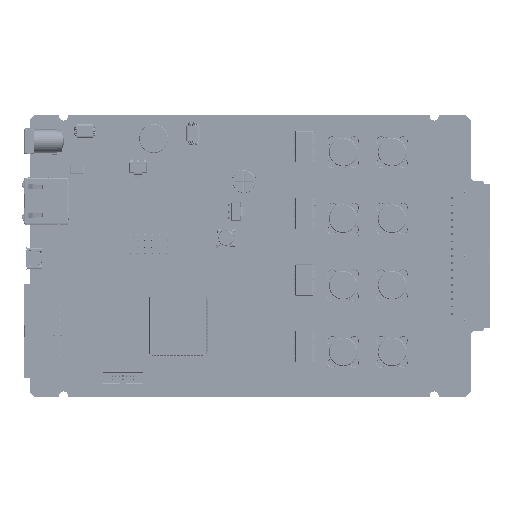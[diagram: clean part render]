
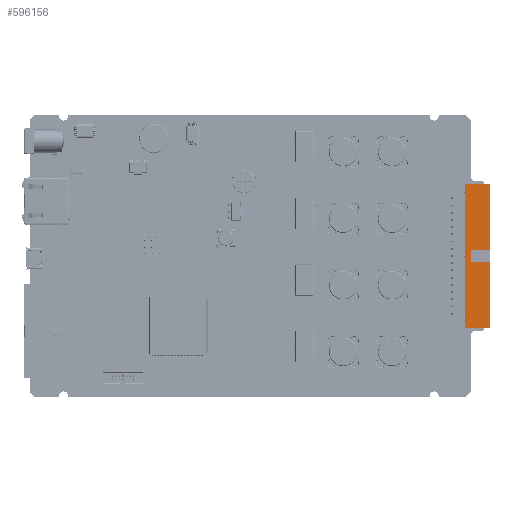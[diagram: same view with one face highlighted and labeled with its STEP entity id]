
A CAD part, top view. The second image highlights one B-rep face of the part: STEP entity #596156.
In plain terms, the highlighted planar face has unit normal (0, 0, 1).
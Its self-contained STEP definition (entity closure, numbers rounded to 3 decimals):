
#596156 = ADVANCED_FACE('',(#596157),#596223,.F.);
#596157 = FACE_BOUND('',#596158,.T.);
#596158 = EDGE_LOOP('',(#596159,#596169,#596177,#596185,#596193,#596201,
    #596209,#596217));
#596159 = ORIENTED_EDGE('',*,*,#596160,.F.);
#596160 = EDGE_CURVE('',#596161,#596163,#596165,.T.);
#596161 = VERTEX_POINT('',#596162);
#596162 = CARTESIAN_POINT('',(155.199,47.5,
    9.225));
#596163 = VERTEX_POINT('',#596164);
#596164 = CARTESIAN_POINT('',(161.999,47.5,
    9.225));
#596165 = LINE('',#596166,#596167);
#596166 = CARTESIAN_POINT('',(155.199,47.5,
    9.225));
#596167 = VECTOR('',#596168,1.);
#596168 = DIRECTION('',(1.,0.,0.));
#596169 = ORIENTED_EDGE('',*,*,#596170,.T.);
#596170 = EDGE_CURVE('',#596161,#596171,#596173,.T.);
#596171 = VERTEX_POINT('',#596172);
#596172 = CARTESIAN_POINT('',(155.199,52.,
    9.225));
#596173 = LINE('',#596174,#596175);
#596174 = CARTESIAN_POINT('',(155.199,47.5,
    9.225));
#596175 = VECTOR('',#596176,1.);
#596176 = DIRECTION('',(0.,1.,0.));
#596177 = ORIENTED_EDGE('',*,*,#596178,.T.);
#596178 = EDGE_CURVE('',#596171,#596179,#596181,.T.);
#596179 = VERTEX_POINT('',#596180);
#596180 = CARTESIAN_POINT('',(161.999,52.,
    9.225));
#596181 = LINE('',#596182,#596183);
#596182 = CARTESIAN_POINT('',(155.199,52.,
    9.225));
#596183 = VECTOR('',#596184,1.);
#596184 = DIRECTION('',(1.,0.,0.));
#596185 = ORIENTED_EDGE('',*,*,#596186,.F.);
#596186 = EDGE_CURVE('',#596187,#596179,#596189,.T.);
#596187 = VERTEX_POINT('',#596188);
#596188 = CARTESIAN_POINT('',(161.999,75.17,
    9.225));
#596189 = LINE('',#596190,#596191);
#596190 = CARTESIAN_POINT('',(161.999,75.17,
    9.225));
#596191 = VECTOR('',#596192,1.);
#596192 = DIRECTION('',(0.,-1.,0.));
#596193 = ORIENTED_EDGE('',*,*,#596194,.F.);
#596194 = EDGE_CURVE('',#596195,#596187,#596197,.T.);
#596195 = VERTEX_POINT('',#596196);
#596196 = CARTESIAN_POINT('',(153.149,75.17,
    9.225));
#596197 = LINE('',#596198,#596199);
#596198 = CARTESIAN_POINT('',(153.149,75.17,
    9.225));
#596199 = VECTOR('',#596200,1.);
#596200 = DIRECTION('',(1.,0.,0.));
#596201 = ORIENTED_EDGE('',*,*,#596202,.F.);
#596202 = EDGE_CURVE('',#596203,#596195,#596205,.T.);
#596203 = VERTEX_POINT('',#596204);
#596204 = CARTESIAN_POINT('',(153.149,24.33,
    9.225));
#596205 = LINE('',#596206,#596207);
#596206 = CARTESIAN_POINT('',(153.149,24.33,
    9.225));
#596207 = VECTOR('',#596208,1.);
#596208 = DIRECTION('',(0.,1.,0.));
#596209 = ORIENTED_EDGE('',*,*,#596210,.F.);
#596210 = EDGE_CURVE('',#596211,#596203,#596213,.T.);
#596211 = VERTEX_POINT('',#596212);
#596212 = CARTESIAN_POINT('',(161.999,24.33,
    9.225));
#596213 = LINE('',#596214,#596215);
#596214 = CARTESIAN_POINT('',(161.999,24.33,
    9.225));
#596215 = VECTOR('',#596216,1.);
#596216 = DIRECTION('',(-1.,0.,0.));
#596217 = ORIENTED_EDGE('',*,*,#596218,.F.);
#596218 = EDGE_CURVE('',#596163,#596211,#596219,.T.);
#596219 = LINE('',#596220,#596221);
#596220 = CARTESIAN_POINT('',(161.999,75.17,
    9.225));
#596221 = VECTOR('',#596222,1.);
#596222 = DIRECTION('',(0.,-1.,0.));
#596223 = PLANE('',#596224);
#596224 = AXIS2_PLACEMENT_3D('',#596225,#596226,#596227);
#596225 = CARTESIAN_POINT('',(157.574,49.75,
    9.225));
#596226 = DIRECTION('',(0.,0.,-1.));
#596227 = DIRECTION('',(1.,0.,0.));
